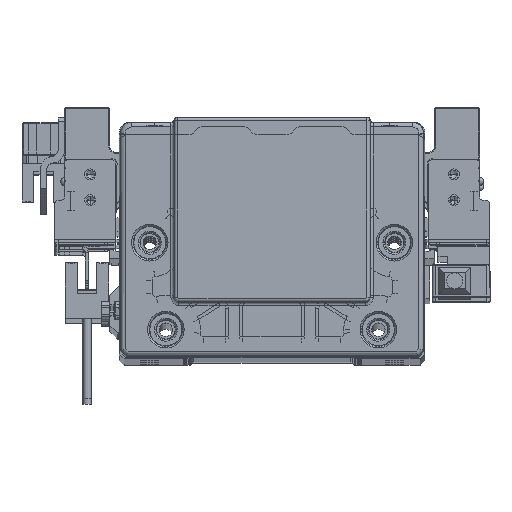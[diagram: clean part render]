
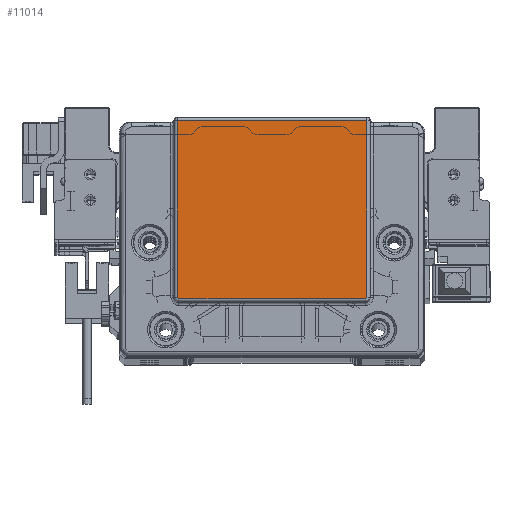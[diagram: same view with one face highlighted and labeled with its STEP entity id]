
A CAD part, top view. The second image highlights one B-rep face of the part: STEP entity #11014.
In plain terms, the highlighted planar face has unit normal (0, 0, 1) as drawn and (0, 0, -1) by its records, which use the part's own axes.
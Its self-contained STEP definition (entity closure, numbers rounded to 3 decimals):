
#934 = VECTOR ( 'NONE', #60952, 1000. ) ;
#1585 = VERTEX_POINT ( 'NONE', #74936 ) ;
#3741 = CARTESIAN_POINT ( 'NONE',  ( 29.286, -19.089, -2. ) ) ;
#4446 = CARTESIAN_POINT ( 'NONE',  ( -29.226, -19.14, -2. ) ) ;
#4757 = ORIENTED_EDGE ( 'NONE', *, *, #30936, .F. ) ;
#5172 = EDGE_LOOP ( 'NONE', ( #17968, #65072, #18631, #71031, #76550, #4757 ) ) ;
#5803 = CARTESIAN_POINT ( 'NONE',  ( -29.051, -19.224, -2. ) ) ;
#5857 = DIRECTION ( 'NONE',  ( 0., 1., 0. ) ) ;
#8329 = CARTESIAN_POINT ( 'NONE',  ( -28.935, -19.232, -2. ) ) ;
#10547 = CARTESIAN_POINT ( 'NONE',  ( 29.268, -19.105, -2. ) ) ;
#11014 = ADVANCED_FACE ( 'NONE', ( #38798 ), #53670, .T. ) ;
#11452 = CARTESIAN_POINT ( 'NONE',  ( 29.427, -18.849, -2. ) ) ;
#11694 = CARTESIAN_POINT ( 'NONE',  ( -29.282, -19.093, -2. ) ) ;
#11883 = CARTESIAN_POINT ( 'NONE',  ( 29.247, -19.124, -2. ) ) ;
#12597 = CARTESIAN_POINT ( 'NONE',  ( -29.126, -19.195, -2. ) ) ;
#12997 = CARTESIAN_POINT ( 'NONE',  ( 0., -19.232, -2. ) ) ;
#13048 = CARTESIAN_POINT ( 'NONE',  ( -29.299, -19.076, -2. ) ) ;
#14366 = CARTESIAN_POINT ( 'NONE',  ( -29.435, 36.185, -2. ) ) ;
#17348 = CARTESIAN_POINT ( 'NONE',  ( 29.391, -18.939, -2. ) ) ;
#17968 = ORIENTED_EDGE ( 'NONE', *, *, #77291, .T. ) ;
#18631 = ORIENTED_EDGE ( 'NONE', *, *, #46703, .T. ) ;
#18798 = B_SPLINE_CURVE_WITH_KNOTS ( 'NONE', 3,
 ( #87426, #59405, #25448, #73866, #53504, #11883, #10547, #25914, #60294, #3741, #86092, #24113, #87882, #51731, #19117, #46735, #79310, #38180, #17348, #44964, #65740, #31377, #11452, #26363, #19122 ),
 .UNSPECIFIED., .F., .F.,
 ( 4, 2, 1, 1, 1, 1, 2, 2, 2, 2, 2, 1, 2, 2, 4 ),
 ( 0., 0.25, 0.375, 0.438, 0.469, 0.484, 0.492, 0.5, 0.625, 0.688, 0.719, 0.734, 0.742, 0.75, 1. ),
 .UNSPECIFIED. ) ;
#19117 = CARTESIAN_POINT ( 'NONE',  ( 29.354, -19.006, -2. ) ) ;
#19122 = CARTESIAN_POINT ( 'NONE',  ( 29.435, -18.732, -2. ) ) ;
#19369 = CARTESIAN_POINT ( 'NONE',  ( -29.308, -19.065, -2. ) ) ;
#19428 = LINE ( 'NONE', #33469, #87228 ) ;
#22740 = CARTESIAN_POINT ( 'NONE',  ( -29.435, -18.732, -2. ) ) ;
#24113 = CARTESIAN_POINT ( 'NONE',  ( 29.296, -19.079, -2. ) ) ;
#25448 = CARTESIAN_POINT ( 'NONE',  ( 29.069, -19.218, -2. ) ) ;
#25618 = DIRECTION ( 'NONE',  ( 0., 0., -1. ) ) ;
#25724 = CARTESIAN_POINT ( 'NONE',  ( -29.435, -18.801, -2. ) ) ;
#25914 = CARTESIAN_POINT ( 'NONE',  ( 29.279, -19.096, -2. ) ) ;
#26363 = CARTESIAN_POINT ( 'NONE',  ( 29.435, -18.785, -2. ) ) ;
#30936 = EDGE_CURVE ( 'NONE', #60779, #82348, #34688, .T. ) ;
#31377 = CARTESIAN_POINT ( 'NONE',  ( 29.399, -18.919, -2. ) ) ;
#32073 = CARTESIAN_POINT ( 'NONE',  ( -29.142, -19.188, -2. ) ) ;
#32515 = CARTESIAN_POINT ( 'NONE',  ( -29.121, -19.196, -2. ) ) ;
#33361 = LINE ( 'NONE', #12997, #934 ) ;
#33469 = CARTESIAN_POINT ( 'NONE',  ( -29.435, 0., -2. ) ) ;
#34688 = B_SPLINE_CURVE_WITH_KNOTS ( 'NONE', 3,
 ( #47462, #25724, #73230, #67807, #75030, #46551, #19369, #13048, #87687, #66453, #61445, #11694, #46996, #4446, #80445, #40668, #53320, #74562, #32073, #59657, #12597, #32515, #5803, #68238, #54210 ),
 .UNSPECIFIED., .F., .F.,
 ( 4, 2, 1, 1, 1, 1, 2, 2, 2, 2, 2, 1, 2, 2, 4 ),
 ( 0., 0.25, 0.375, 0.437, 0.469, 0.484, 0.492, 0.5, 0.625, 0.687, 0.719, 0.734, 0.742, 0.75, 1. ),
 .UNSPECIFIED. ) ;
#35847 = CARTESIAN_POINT ( 'NONE',  ( 29.435, -18.732, -2. ) ) ;
#37324 = CARTESIAN_POINT ( 'NONE',  ( 29.435, 36.185, -2. ) ) ;
#38180 = CARTESIAN_POINT ( 'NONE',  ( 29.386, -18.948, -2. ) ) ;
#38798 = FACE_OUTER_BOUND ( 'NONE', #5172, .T. ) ;
#39310 = LINE ( 'NONE', #44764, #81744 ) ;
#40668 = CARTESIAN_POINT ( 'NONE',  ( -29.18, -19.169, -2. ) ) ;
#44764 = CARTESIAN_POINT ( 'NONE',  ( 0., 36.185, -2. ) ) ;
#44964 = CARTESIAN_POINT ( 'NONE',  ( 29.395, -18.93, -2. ) ) ;
#45201 = DIRECTION ( 'NONE',  ( 1., 0., 0. ) ) ;
#46551 = CARTESIAN_POINT ( 'NONE',  ( -29.326, -19.044, -2. ) ) ;
#46573 = CARTESIAN_POINT ( 'NONE',  ( 29.435, 0., -2. ) ) ;
#46703 = EDGE_CURVE ( 'NONE', #72671, #64501, #67364, .T. ) ;
#46735 = CARTESIAN_POINT ( 'NONE',  ( 29.372, -18.977, -2. ) ) ;
#46901 = CARTESIAN_POINT ( 'NONE',  ( 0., 0., -2. ) ) ;
#46996 = CARTESIAN_POINT ( 'NONE',  ( -29.266, -19.109, -2. ) ) ;
#47462 = CARTESIAN_POINT ( 'NONE',  ( -29.435, -18.732, -2. ) ) ;
#51731 = CARTESIAN_POINT ( 'NONE',  ( 29.343, -19.023, -2. ) ) ;
#53320 = CARTESIAN_POINT ( 'NONE',  ( -29.169, -19.175, -2. ) ) ;
#53504 = CARTESIAN_POINT ( 'NONE',  ( 29.201, -19.157, -2. ) ) ;
#53670 = PLANE ( 'NONE',  #60118 ) ;
#54210 = CARTESIAN_POINT ( 'NONE',  ( -28.935, -19.232, -2. ) ) ;
#59405 = CARTESIAN_POINT ( 'NONE',  ( 29.003, -19.232, -2. ) ) ;
#59657 = CARTESIAN_POINT ( 'NONE',  ( -29.133, -19.192, -2. ) ) ;
#60013 = DIRECTION ( 'NONE',  ( -1., 0., 0. ) ) ;
#60118 = AXIS2_PLACEMENT_3D ( 'NONE', #46901, #25618, #60013 ) ;
#60294 = CARTESIAN_POINT ( 'NONE',  ( 29.283, -19.092, -2. ) ) ;
#60779 = VERTEX_POINT ( 'NONE', #22740 ) ;
#60952 = DIRECTION ( 'NONE',  ( -1., 0., 0. ) ) ;
#61445 = CARTESIAN_POINT ( 'NONE',  ( -29.289, -19.086, -2. ) ) ;
#64501 = VERTEX_POINT ( 'NONE', #35847 ) ;
#65072 = ORIENTED_EDGE ( 'NONE', *, *, #79858, .T. ) ;
#65740 = CARTESIAN_POINT ( 'NONE',  ( 29.397, -18.923, -2. ) ) ;
#66453 = CARTESIAN_POINT ( 'NONE',  ( -29.292, -19.083, -2. ) ) ;
#67364 = LINE ( 'NONE', #46573, #79159 ) ;
#67807 = CARTESIAN_POINT ( 'NONE',  ( -29.383, -18.956, -2. ) ) ;
#68238 = CARTESIAN_POINT ( 'NONE',  ( -28.988, -19.232, -2. ) ) ;
#69786 = EDGE_CURVE ( 'NONE', #1585, #64501, #18798, .T. ) ;
#71031 = ORIENTED_EDGE ( 'NONE', *, *, #69786, .F. ) ;
#72671 = VERTEX_POINT ( 'NONE', #37324 ) ;
#73230 = CARTESIAN_POINT ( 'NONE',  ( -29.421, -18.866, -2. ) ) ;
#73866 = CARTESIAN_POINT ( 'NONE',  ( 29.158, -19.18, -2. ) ) ;
#74152 = VERTEX_POINT ( 'NONE', #14366 ) ;
#74562 = CARTESIAN_POINT ( 'NONE',  ( -29.151, -19.183, -2. ) ) ;
#74936 = CARTESIAN_POINT ( 'NONE',  ( 28.935, -19.232, -2. ) ) ;
#75030 = CARTESIAN_POINT ( 'NONE',  ( -29.36, -18.998, -2. ) ) ;
#76550 = ORIENTED_EDGE ( 'NONE', *, *, #81725, .T. ) ;
#77291 = EDGE_CURVE ( 'NONE', #60779, #74152, #19428, .T. ) ;
#79159 = VECTOR ( 'NONE', #81366, 1000. ) ;
#79310 = CARTESIAN_POINT ( 'NONE',  ( 29.378, -18.966, -2. ) ) ;
#79858 = EDGE_CURVE ( 'NONE', #74152, #72671, #39310, .T. ) ;
#80445 = CARTESIAN_POINT ( 'NONE',  ( -29.209, -19.151, -2. ) ) ;
#81366 = DIRECTION ( 'NONE',  ( 0., -1., 0. ) ) ;
#81725 = EDGE_CURVE ( 'NONE', #1585, #82348, #33361, .T. ) ;
#81744 = VECTOR ( 'NONE', #45201, 1000. ) ;
#82348 = VERTEX_POINT ( 'NONE', #8329 ) ;
#86092 = CARTESIAN_POINT ( 'NONE',  ( 29.288, -19.086, -2. ) ) ;
#87228 = VECTOR ( 'NONE', #5857, 1000. ) ;
#87426 = CARTESIAN_POINT ( 'NONE',  ( 28.935, -19.232, -2. ) ) ;
#87687 = CARTESIAN_POINT ( 'NONE',  ( -29.294, -19.08, -2. ) ) ;
#87882 = CARTESIAN_POINT ( 'NONE',  ( 29.312, -19.063, -2. ) ) ;
